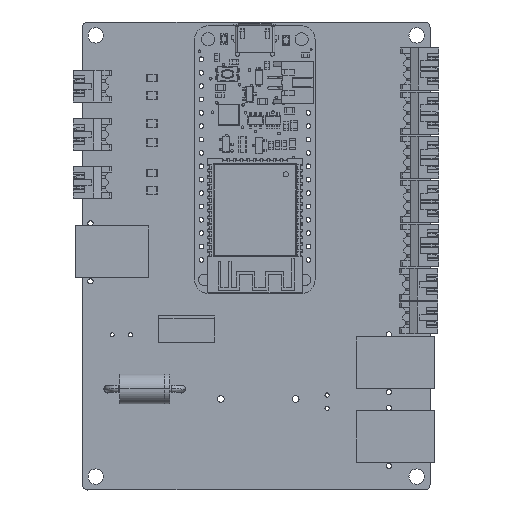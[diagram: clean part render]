
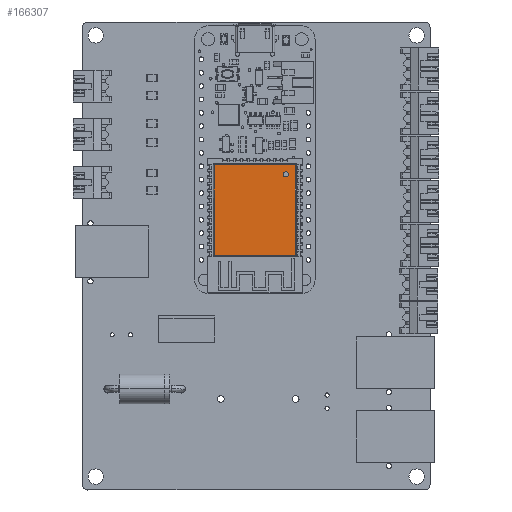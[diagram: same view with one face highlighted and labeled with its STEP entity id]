
A CAD part, top view. The second image highlights one B-rep face of the part: STEP entity #166307.
In plain terms, the highlighted planar face has unit normal (0, 0, 1).
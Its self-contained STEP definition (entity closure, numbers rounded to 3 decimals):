
#165650 = CYLINDRICAL_SURFACE('',#165651,0.2);
#165651 = AXIS2_PLACEMENT_3D('',#165652,#165653,#165654);
#165652 = CARTESIAN_POINT('',(-7.7,1.05,3.2));
#165653 = DIRECTION('',(0.,1.,0.));
#165654 = DIRECTION('',(-0.707,0.,
    0.707));
#165674 = VERTEX_POINT('',#165675);
#165675 = CARTESIAN_POINT('',(-7.7,-11.95,3.4));
#165712 = CYLINDRICAL_SURFACE('',#165713,0.2);
#165713 = AXIS2_PLACEMENT_3D('',#165714,#165715,#165716);
#165714 = CARTESIAN_POINT('',(-3.95,-11.95,3.2));
#165715 = DIRECTION('',(-1.,0.,0.));
#165716 = DIRECTION('',(0.,-0.707,
    0.707));
#165746 = EDGE_CURVE('',#165674,#165747,#165749,.T.);
#165747 = VERTEX_POINT('',#165748);
#165748 = CARTESIAN_POINT('',(-7.7,5.25,3.4));
#165749 = SURFACE_CURVE('',#165750,(#165754,#165760),.PCURVE_S1.);
#165750 = LINE('',#165751,#165752);
#165751 = CARTESIAN_POINT('',(-7.7,1.05,3.4));
#165752 = VECTOR('',#165753,1.);
#165753 = DIRECTION('',(0.,1.,0.));
#165754 = PCURVE('',#165650,#165755);
#165755 = DEFINITIONAL_REPRESENTATION('',(#165756),#165759);
#165756 = B_SPLINE_CURVE_WITH_KNOTS('',1,(#165757,#165758),
  .UNSPECIFIED.,.F.,.F.,(2,2),(-13.,4.2),.PIECEWISE_BEZIER_KNOTS.);
#165757 = CARTESIAN_POINT('',(0.785,-13.));
#165758 = CARTESIAN_POINT('',(0.785,4.2));
#165759 = ( GEOMETRIC_REPRESENTATION_CONTEXT(2) 
PARAMETRIC_REPRESENTATION_CONTEXT() REPRESENTATION_CONTEXT('2D SPACE',''
  ) );
#165760 = PCURVE('',#165761,#165766);
#165761 = PLANE('',#165762);
#165762 = AXIS2_PLACEMENT_3D('',#165763,#165764,#165765);
#165763 = CARTESIAN_POINT('',(0.,-3.35,3.4));
#165764 = DIRECTION('',(0.,0.,1.));
#165765 = DIRECTION('',(1.,0.,0.));
#165766 = DEFINITIONAL_REPRESENTATION('',(#165767),#165771);
#165767 = LINE('',#165768,#165769);
#165768 = CARTESIAN_POINT('',(-7.7,4.4));
#165769 = VECTOR('',#165770,1.);
#165770 = DIRECTION('',(0.,1.));
#165771 = ( GEOMETRIC_REPRESENTATION_CONTEXT(2) 
PARAMETRIC_REPRESENTATION_CONTEXT() REPRESENTATION_CONTEXT('2D SPACE',''
  ) );
#165810 = CYLINDRICAL_SURFACE('',#165811,0.2);
#165811 = AXIS2_PLACEMENT_3D('',#165812,#165813,#165814);
#165812 = CARTESIAN_POINT('',(3.95,5.25,3.2));
#165813 = DIRECTION('',(1.,0.,0.));
#165814 = DIRECTION('',(0.,0.707,
    0.707));
#165847 = EDGE_CURVE('',#165848,#165674,#165850,.T.);
#165848 = VERTEX_POINT('',#165849);
#165849 = CARTESIAN_POINT('',(7.7,-11.95,3.4));
#165850 = SURFACE_CURVE('',#165851,(#165855,#165861),.PCURVE_S1.);
#165851 = LINE('',#165852,#165853);
#165852 = CARTESIAN_POINT('',(-3.95,-11.95,3.4));
#165853 = VECTOR('',#165854,1.);
#165854 = DIRECTION('',(-1.,0.,0.));
#165855 = PCURVE('',#165712,#165856);
#165856 = DEFINITIONAL_REPRESENTATION('',(#165857),#165860);
#165857 = B_SPLINE_CURVE_WITH_KNOTS('',1,(#165858,#165859),
  .UNSPECIFIED.,.F.,.F.,(2,2),(-11.65,3.75),.PIECEWISE_BEZIER_KNOTS.);
#165858 = CARTESIAN_POINT('',(7.069,-11.65));
#165859 = CARTESIAN_POINT('',(7.069,3.75));
#165860 = ( GEOMETRIC_REPRESENTATION_CONTEXT(2) 
PARAMETRIC_REPRESENTATION_CONTEXT() REPRESENTATION_CONTEXT('2D SPACE',''
  ) );
#165861 = PCURVE('',#165761,#165862);
#165862 = DEFINITIONAL_REPRESENTATION('',(#165863),#165867);
#165863 = LINE('',#165864,#165865);
#165864 = CARTESIAN_POINT('',(-3.95,-8.6));
#165865 = VECTOR('',#165866,1.);
#165866 = DIRECTION('',(-1.,0.));
#165867 = ( GEOMETRIC_REPRESENTATION_CONTEXT(2) 
PARAMETRIC_REPRESENTATION_CONTEXT() REPRESENTATION_CONTEXT('2D SPACE',''
  ) );
#165934 = CYLINDRICAL_SURFACE('',#165935,0.2);
#165935 = AXIS2_PLACEMENT_3D('',#165936,#165937,#165938);
#165936 = CARTESIAN_POINT('',(7.7,-7.75,3.2));
#165937 = DIRECTION('',(0.,-1.,0.));
#165938 = DIRECTION('',(0.707,0.,
    0.707));
#166022 = EDGE_CURVE('',#165747,#166023,#166025,.T.);
#166023 = VERTEX_POINT('',#166024);
#166024 = CARTESIAN_POINT('',(7.7,5.25,3.4));
#166025 = SURFACE_CURVE('',#166026,(#166030,#166059),.PCURVE_S1.);
#166026 = LINE('',#166027,#166028);
#166027 = CARTESIAN_POINT('',(3.95,5.25,3.4));
#166028 = VECTOR('',#166029,1.);
#166029 = DIRECTION('',(1.,0.,0.));
#166030 = PCURVE('',#165810,#166031);
#166031 = DEFINITIONAL_REPRESENTATION('',(#166032),#166058);
#166032 = B_SPLINE_CURVE_WITH_KNOTS('',3,(#166033,#166034,#166035,
    #166036,#166037,#166038,#166039,#166040,#166041,#166042,#166043,
    #166044,#166045,#166046,#166047,#166048,#166049,#166050,#166051,
    #166052,#166053,#166054,#166055,#166056,#166057),.UNSPECIFIED.,.F.,
  .F.,(4,1,1,1,1,1,1,1,1,1,1,1,1,1,1,1,1,1,1,1,1,1,4),(-11.65,-10.95,
    -10.25,-9.55,-8.85,-8.15,-7.45,-6.75,-6.05,-5.35,-4.65,-3.95,-3.25,
    -2.55,-1.85,-1.15,-0.45,0.25,0.95,1.65,2.35,3.05,3.75),
  .UNSPECIFIED.);
#166033 = CARTESIAN_POINT('',(7.069,-11.65));
#166034 = CARTESIAN_POINT('',(7.069,-11.417));
#166035 = CARTESIAN_POINT('',(7.069,-10.95));
#166036 = CARTESIAN_POINT('',(7.069,-10.25));
#166037 = CARTESIAN_POINT('',(7.069,-9.55));
#166038 = CARTESIAN_POINT('',(7.069,-8.85));
#166039 = CARTESIAN_POINT('',(7.069,-8.15));
#166040 = CARTESIAN_POINT('',(7.069,-7.45));
#166041 = CARTESIAN_POINT('',(7.069,-6.75));
#166042 = CARTESIAN_POINT('',(7.069,-6.05));
#166043 = CARTESIAN_POINT('',(7.069,-5.35));
#166044 = CARTESIAN_POINT('',(7.069,-4.65));
#166045 = CARTESIAN_POINT('',(7.069,-3.95));
#166046 = CARTESIAN_POINT('',(7.069,-3.25));
#166047 = CARTESIAN_POINT('',(7.069,-2.55));
#166048 = CARTESIAN_POINT('',(7.069,-1.85));
#166049 = CARTESIAN_POINT('',(7.069,-1.15));
#166050 = CARTESIAN_POINT('',(7.069,-0.45));
#166051 = CARTESIAN_POINT('',(7.069,0.25));
#166052 = CARTESIAN_POINT('',(7.069,0.95));
#166053 = CARTESIAN_POINT('',(7.069,1.65));
#166054 = CARTESIAN_POINT('',(7.069,2.35));
#166055 = CARTESIAN_POINT('',(7.069,3.05));
#166056 = CARTESIAN_POINT('',(7.069,3.517));
#166057 = CARTESIAN_POINT('',(7.069,3.75));
#166058 = ( GEOMETRIC_REPRESENTATION_CONTEXT(2) 
PARAMETRIC_REPRESENTATION_CONTEXT() REPRESENTATION_CONTEXT('2D SPACE',''
  ) );
#166059 = PCURVE('',#165761,#166060);
#166060 = DEFINITIONAL_REPRESENTATION('',(#166061),#166065);
#166061 = LINE('',#166062,#166063);
#166062 = CARTESIAN_POINT('',(3.95,8.6));
#166063 = VECTOR('',#166064,1.);
#166064 = DIRECTION('',(1.,0.));
#166065 = ( GEOMETRIC_REPRESENTATION_CONTEXT(2) 
PARAMETRIC_REPRESENTATION_CONTEXT() REPRESENTATION_CONTEXT('2D SPACE',''
  ) );
#166162 = EDGE_CURVE('',#166023,#165848,#166163,.T.);
#166163 = SURFACE_CURVE('',#166164,(#166168,#166174),.PCURVE_S1.);
#166164 = LINE('',#166165,#166166);
#166165 = CARTESIAN_POINT('',(7.7,-7.75,3.4));
#166166 = VECTOR('',#166167,1.);
#166167 = DIRECTION('',(0.,-1.,0.));
#166168 = PCURVE('',#165934,#166169);
#166169 = DEFINITIONAL_REPRESENTATION('',(#166170),#166173);
#166170 = B_SPLINE_CURVE_WITH_KNOTS('',1,(#166171,#166172),
  .UNSPECIFIED.,.F.,.F.,(2,2),(-13.,4.2),.PIECEWISE_BEZIER_KNOTS.);
#166171 = CARTESIAN_POINT('',(0.785,-13.));
#166172 = CARTESIAN_POINT('',(0.785,4.2));
#166173 = ( GEOMETRIC_REPRESENTATION_CONTEXT(2) 
PARAMETRIC_REPRESENTATION_CONTEXT() REPRESENTATION_CONTEXT('2D SPACE',''
  ) );
#166174 = PCURVE('',#165761,#166175);
#166175 = DEFINITIONAL_REPRESENTATION('',(#166176),#166180);
#166176 = LINE('',#166177,#166178);
#166177 = CARTESIAN_POINT('',(7.7,-4.4));
#166178 = VECTOR('',#166179,1.);
#166179 = DIRECTION('',(0.,-1.));
#166180 = ( GEOMETRIC_REPRESENTATION_CONTEXT(2) 
PARAMETRIC_REPRESENTATION_CONTEXT() REPRESENTATION_CONTEXT('2D SPACE',''
  ) );
#166307 = ADVANCED_FACE('',(#166308,#166314),#165761,.T.);
#166308 = FACE_BOUND('',#166309,.T.);
#166309 = EDGE_LOOP('',(#166310,#166311,#166312,#166313));
#166310 = ORIENTED_EDGE('',*,*,#165746,.F.);
#166311 = ORIENTED_EDGE('',*,*,#165847,.F.);
#166312 = ORIENTED_EDGE('',*,*,#166162,.F.);
#166313 = ORIENTED_EDGE('',*,*,#166022,.F.);
#166314 = FACE_BOUND('',#166315,.T.);
#166315 = EDGE_LOOP('',(#166316));
#166316 = ORIENTED_EDGE('',*,*,#166317,.F.);
#166317 = EDGE_CURVE('',#166318,#166318,#166320,.T.);
#166318 = VERTEX_POINT('',#166319);
#166319 = CARTESIAN_POINT('',(-6.4,-10.15,3.4));
#166320 = SURFACE_CURVE('',#166321,(#166326,#166333),.PCURVE_S1.);
#166321 = CIRCLE('',#166322,0.5);
#166322 = AXIS2_PLACEMENT_3D('',#166323,#166324,#166325);
#166323 = CARTESIAN_POINT('',(-5.9,-10.15,3.4));
#166324 = DIRECTION('',(0.,0.,1.));
#166325 = DIRECTION('',(1.,0.,0.));
#166326 = PCURVE('',#165761,#166327);
#166327 = DEFINITIONAL_REPRESENTATION('',(#166328),#166332);
#166328 = CIRCLE('',#166329,0.5);
#166329 = AXIS2_PLACEMENT_2D('',#166330,#166331);
#166330 = CARTESIAN_POINT('',(-5.9,-6.8));
#166331 = DIRECTION('',(1.,0.));
#166332 = ( GEOMETRIC_REPRESENTATION_CONTEXT(2) 
PARAMETRIC_REPRESENTATION_CONTEXT() REPRESENTATION_CONTEXT('2D SPACE',''
  ) );
#166333 = PCURVE('',#166334,#166339);
#166334 = CYLINDRICAL_SURFACE('',#166335,0.5);
#166335 = AXIS2_PLACEMENT_3D('',#166336,#166337,#166338);
#166336 = CARTESIAN_POINT('',(-5.9,-10.15,0.8));
#166337 = DIRECTION('',(0.,0.,1.));
#166338 = DIRECTION('',(1.,0.,0.));
#166339 = DEFINITIONAL_REPRESENTATION('',(#166340),#166343);
#166340 = B_SPLINE_CURVE_WITH_KNOTS('',1,(#166341,#166342),
  .UNSPECIFIED.,.F.,.F.,(2,2),(3.142,9.425),
  .PIECEWISE_BEZIER_KNOTS.);
#166341 = CARTESIAN_POINT('',(-3.142,2.6));
#166342 = CARTESIAN_POINT('',(3.142,2.6));
#166343 = ( GEOMETRIC_REPRESENTATION_CONTEXT(2) 
PARAMETRIC_REPRESENTATION_CONTEXT() REPRESENTATION_CONTEXT('2D SPACE',''
  ) );
